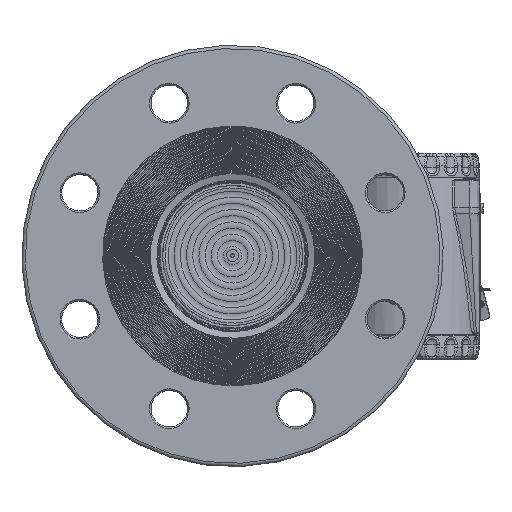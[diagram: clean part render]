
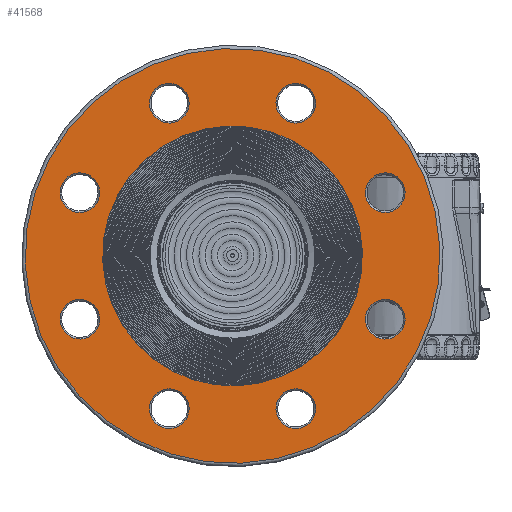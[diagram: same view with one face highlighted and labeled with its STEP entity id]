
A CAD part, top view. The second image highlights one B-rep face of the part: STEP entity #41568.
In plain terms, the highlighted planar face has unit normal (0, 0, 1).
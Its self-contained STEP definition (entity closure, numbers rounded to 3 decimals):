
#675=FACE_BOUND('',#6876,.T.);
#676=FACE_BOUND('',#6877,.T.);
#677=FACE_BOUND('',#6878,.T.);
#678=FACE_BOUND('',#6879,.T.);
#679=FACE_BOUND('',#6880,.T.);
#680=FACE_BOUND('',#6881,.T.);
#681=FACE_BOUND('',#6882,.T.);
#682=FACE_BOUND('',#6883,.T.);
#683=FACE_BOUND('',#6884,.T.);
#2703=PLANE('',#46141);
#4102=FACE_OUTER_BOUND('',#6875,.T.);
#6875=EDGE_LOOP('',(#31582));
#6876=EDGE_LOOP('',(#31583));
#6877=EDGE_LOOP('',(#31584));
#6878=EDGE_LOOP('',(#31585));
#6879=EDGE_LOOP('',(#31586));
#6880=EDGE_LOOP('',(#31587));
#6881=EDGE_LOOP('',(#31588));
#6882=EDGE_LOOP('',(#31589));
#6883=EDGE_LOOP('',(#31590));
#6884=EDGE_LOOP('',(#31591));
#13658=CIRCLE('',#46138,125.5);
#13660=CIRCLE('',#46142,12.);
#13661=CIRCLE('',#46143,12.);
#13662=CIRCLE('',#46144,12.);
#13663=CIRCLE('',#46145,12.);
#13664=CIRCLE('',#46146,78.6);
#13665=CIRCLE('',#46147,12.);
#13666=CIRCLE('',#46148,12.);
#13667=CIRCLE('',#46149,12.);
#13668=CIRCLE('',#46150,12.);
#18206=VERTEX_POINT('',#73378);
#18208=VERTEX_POINT('',#73386);
#18209=VERTEX_POINT('',#73388);
#18210=VERTEX_POINT('',#73390);
#18211=VERTEX_POINT('',#73392);
#18212=VERTEX_POINT('',#73394);
#18213=VERTEX_POINT('',#73396);
#18214=VERTEX_POINT('',#73398);
#18215=VERTEX_POINT('',#73400);
#18216=VERTEX_POINT('',#73402);
#22974=EDGE_CURVE('',#18206,#18206,#13658,.T.);
#22977=EDGE_CURVE('',#18208,#18208,#13660,.T.);
#22978=EDGE_CURVE('',#18209,#18209,#13661,.T.);
#22979=EDGE_CURVE('',#18210,#18210,#13662,.T.);
#22980=EDGE_CURVE('',#18211,#18211,#13663,.T.);
#22981=EDGE_CURVE('',#18212,#18212,#13664,.T.);
#22982=EDGE_CURVE('',#18213,#18213,#13665,.T.);
#22983=EDGE_CURVE('',#18214,#18214,#13666,.T.);
#22984=EDGE_CURVE('',#18215,#18215,#13667,.T.);
#22985=EDGE_CURVE('',#18216,#18216,#13668,.T.);
#31582=ORIENTED_EDGE('',*,*,#22974,.F.);
#31583=ORIENTED_EDGE('',*,*,#22977,.F.);
#31584=ORIENTED_EDGE('',*,*,#22978,.F.);
#31585=ORIENTED_EDGE('',*,*,#22979,.F.);
#31586=ORIENTED_EDGE('',*,*,#22980,.F.);
#31587=ORIENTED_EDGE('',*,*,#22981,.F.);
#31588=ORIENTED_EDGE('',*,*,#22982,.F.);
#31589=ORIENTED_EDGE('',*,*,#22983,.F.);
#31590=ORIENTED_EDGE('',*,*,#22984,.F.);
#31591=ORIENTED_EDGE('',*,*,#22985,.F.);
#41568=ADVANCED_FACE('',(#4102,#675,#676,#677,#678,#679,#680,#681,#682,
#683),#2703,.T.);
#46138=AXIS2_PLACEMENT_3D('',#73380,#54303,#54304);
#46141=AXIS2_PLACEMENT_3D('',#73385,#54310,#54311);
#46142=AXIS2_PLACEMENT_3D('',#73387,#54312,#54313);
#46143=AXIS2_PLACEMENT_3D('',#73389,#54314,#54315);
#46144=AXIS2_PLACEMENT_3D('',#73391,#54316,#54317);
#46145=AXIS2_PLACEMENT_3D('',#73393,#54318,#54319);
#46146=AXIS2_PLACEMENT_3D('',#73395,#54320,#54321);
#46147=AXIS2_PLACEMENT_3D('',#73397,#54322,#54323);
#46148=AXIS2_PLACEMENT_3D('',#73399,#54324,#54325);
#46149=AXIS2_PLACEMENT_3D('',#73401,#54326,#54327);
#46150=AXIS2_PLACEMENT_3D('',#73403,#54328,#54329);
#54303=DIRECTION('center_axis',(0.,0.,-1.));
#54304=DIRECTION('ref_axis',(-1.,0.,0.));
#54310=DIRECTION('center_axis',(0.,0.,1.));
#54311=DIRECTION('ref_axis',(1.,0.,0.));
#54312=DIRECTION('center_axis',(0.,0.,1.));
#54313=DIRECTION('ref_axis',(-0.707,0.707,0.));
#54314=DIRECTION('center_axis',(0.,0.,1.));
#54315=DIRECTION('ref_axis',(0.707,0.707,0.));
#54316=DIRECTION('center_axis',(0.,0.,1.));
#54317=DIRECTION('ref_axis',(-0.707,-0.707,0.));
#54318=DIRECTION('center_axis',(0.,0.,1.));
#54319=DIRECTION('ref_axis',(0.,-1.,0.));
#54320=DIRECTION('center_axis',(0.,0.,1.));
#54321=DIRECTION('ref_axis',(-1.,0.,0.));
#54322=DIRECTION('center_axis',(0.,0.,1.));
#54323=DIRECTION('ref_axis',(0.707,-0.707,0.));
#54324=DIRECTION('center_axis',(0.,0.,1.));
#54325=DIRECTION('ref_axis',(-1.,0.,0.));
#54326=DIRECTION('center_axis',(0.,0.,1.));
#54327=DIRECTION('ref_axis',(1.,0.,0.));
#54328=DIRECTION('center_axis',(0.,0.,1.));
#54329=DIRECTION('ref_axis',(0.,1.,0.));
#73378=CARTESIAN_POINT('',(125.5,0.,30.2));
#73380=CARTESIAN_POINT('Origin',(0.,0.,30.2));
#73385=CARTESIAN_POINT('Origin',(0.,0.,30.2));
#73386=CARTESIAN_POINT('',(79.196,62.225,30.2));
#73387=CARTESIAN_POINT('Origin',(70.711,70.711,30.2));
#73388=CARTESIAN_POINT('',(62.225,-79.196,30.2));
#73389=CARTESIAN_POINT('Origin',(70.711,-70.711,30.2));
#73390=CARTESIAN_POINT('',(-62.225,79.196,30.2));
#73391=CARTESIAN_POINT('Origin',(-70.711,70.711,30.2));
#73392=CARTESIAN_POINT('',(-100.,12.,30.2));
#73393=CARTESIAN_POINT('Origin',(-100.,0.,30.2));
#73394=CARTESIAN_POINT('',(78.6,0.,30.2));
#73395=CARTESIAN_POINT('Origin',(0.,0.,30.2));
#73396=CARTESIAN_POINT('',(-79.196,-62.225,30.2));
#73397=CARTESIAN_POINT('Origin',(-70.711,-70.711,30.2));
#73398=CARTESIAN_POINT('',(12.,100.,30.2));
#73399=CARTESIAN_POINT('Origin',(0.,100.,30.2));
#73400=CARTESIAN_POINT('',(-12.,-100.,30.2));
#73401=CARTESIAN_POINT('Origin',(0.,-100.,30.2));
#73402=CARTESIAN_POINT('',(100.,-12.,30.2));
#73403=CARTESIAN_POINT('Origin',(100.,0.,30.2));
